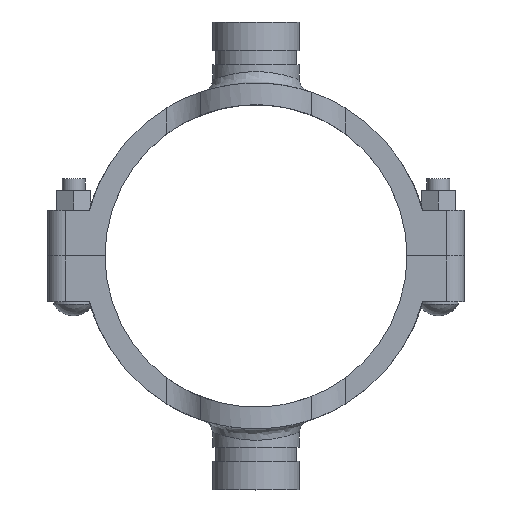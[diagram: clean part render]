
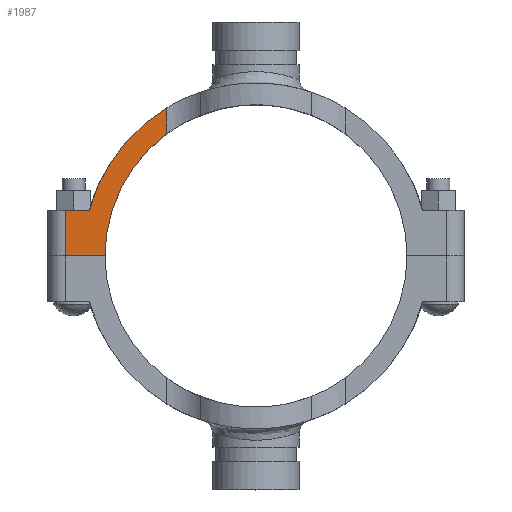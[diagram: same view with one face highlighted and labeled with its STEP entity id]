
A CAD part, top view. The second image highlights one B-rep face of the part: STEP entity #1987.
In plain terms, the highlighted planar face has unit normal (0, 0, 1) as drawn and (0, 0, -1) by its records, which use the part's own axes.
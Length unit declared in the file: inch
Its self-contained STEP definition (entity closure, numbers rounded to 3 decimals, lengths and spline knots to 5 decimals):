
#185=FACE_OUTER_BOUND('',#303,.T.);
#303=EDGE_LOOP('',(#1447,#1448,#1449,#1450,#1451,#1452));
#449=LINE('',#3593,#599);
#450=LINE('',#3595,#600);
#451=LINE('',#3597,#601);
#452=LINE('',#3598,#602);
#599=VECTOR('',#2575,0.3937);
#600=VECTOR('',#2576,0.3937);
#601=VECTOR('',#2577,0.3937);
#602=VECTOR('',#2578,0.3937);
#693=CIRCLE('',#2142,3.79);
#721=CIRCLE('',#2200,3.3125);
#806=VERTEX_POINT('',#3218);
#807=VERTEX_POINT('',#3220);
#858=VERTEX_POINT('',#3514);
#859=VERTEX_POINT('',#3527);
#868=VERTEX_POINT('',#3594);
#869=VERTEX_POINT('',#3596);
#1003=EDGE_CURVE('',#807,#806,#693,.T.);
#1077=EDGE_CURVE('',#859,#858,#721,.T.);
#1089=EDGE_CURVE('',#858,#807,#449,.T.);
#1090=EDGE_CURVE('',#806,#868,#450,.T.);
#1091=EDGE_CURVE('',#869,#868,#451,.T.);
#1092=EDGE_CURVE('',#869,#859,#452,.T.);
#1447=ORIENTED_EDGE('',*,*,#1077,.T.);
#1448=ORIENTED_EDGE('',*,*,#1089,.T.);
#1449=ORIENTED_EDGE('',*,*,#1003,.T.);
#1450=ORIENTED_EDGE('',*,*,#1090,.T.);
#1451=ORIENTED_EDGE('',*,*,#1091,.F.);
#1452=ORIENTED_EDGE('',*,*,#1092,.T.);
#1802=PLANE('',#2204);
#1987=ADVANCED_FACE('',(#185),#1802,.T.);
#2142=AXIS2_PLACEMENT_3D('',#3221,#2404,#2405);
#2200=AXIS2_PLACEMENT_3D('',#3528,#2559,#2560);
#2204=AXIS2_PLACEMENT_3D('',#3592,#2573,#2574);
#2404=DIRECTION('center_axis',(0.,0.,-1.));
#2405=DIRECTION('ref_axis',(0.965,0.264,0.));
#2559=DIRECTION('center_axis',(0.,0.,1.));
#2560=DIRECTION('ref_axis',(-1.,0.,0.));
#2573=DIRECTION('center_axis',(0.,0.,-1.));
#2574=DIRECTION('ref_axis',(-1.,0.,0.));
#2575=DIRECTION('',(0.,1.,0.));
#2576=DIRECTION('',(1.,0.,0.));
#2577=DIRECTION('',(0.,1.,0.));
#2578=DIRECTION('',(-1.,0.,0.));
#3218=CARTESIAN_POINT('',(3.65569,1.,-0.75));
#3220=CARTESIAN_POINT('',(1.95656,3.24592,-0.75));
#3221=CARTESIAN_POINT('Origin',(0.,0.,-0.75));
#3514=CARTESIAN_POINT('',(1.95656,2.67293,-0.75));
#3527=CARTESIAN_POINT('',(3.3125,0.,-0.75));
#3528=CARTESIAN_POINT('Origin',(0.,0.,-0.75));
#3592=CARTESIAN_POINT('Origin',(4.185,0.,-0.75));
#3593=CARTESIAN_POINT('',(1.95656,0.,-0.75));
#3594=CARTESIAN_POINT('',(4.185,1.,-0.75));
#3595=CARTESIAN_POINT('',(3.92035,1.,-0.75));
#3596=CARTESIAN_POINT('',(4.185,0.,-0.75));
#3597=CARTESIAN_POINT('',(4.185,0.,-0.75));
#3598=CARTESIAN_POINT('',(4.185,0.,-0.75));
